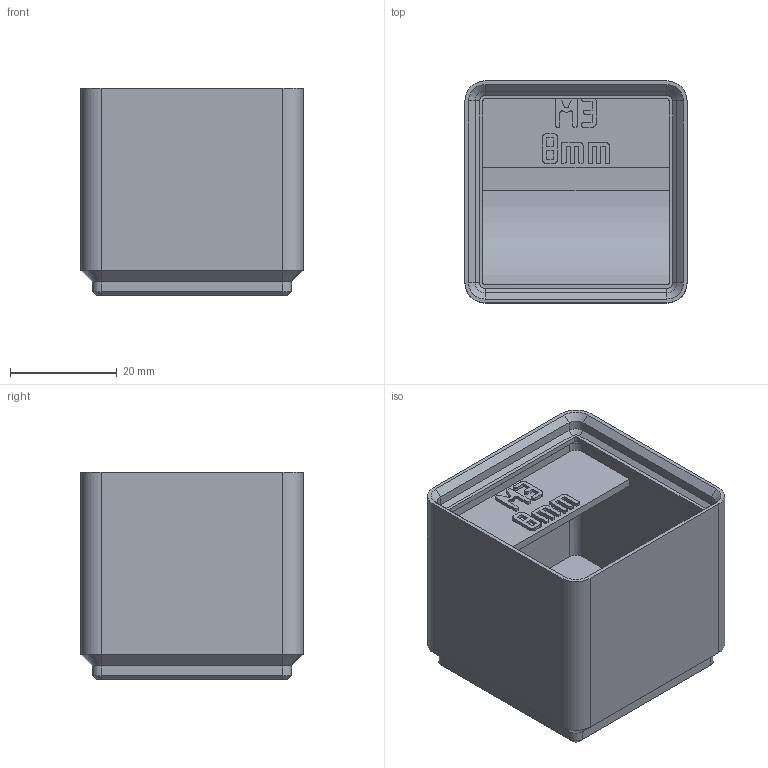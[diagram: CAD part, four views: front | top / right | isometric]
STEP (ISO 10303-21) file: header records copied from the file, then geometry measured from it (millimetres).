
FILE_DESCRIPTION(('Open CASCADE Model'),'2;1');
FILE_NAME('Open CASCADE Shape Model','2026-11-03T10:23:40',('Author'),( 'Open CASCADE'),'Open CASCADE STEP processor 8.0','build123d', 'Unknown');
FILE_SCHEMA(('AUTOMOTIVE_DESIGN { 1 0 10303 214 1 1 1 1 }'));
Length unit declared in the file: millimetre
Products named in the file (1): COMPOUND
Bounding box: 41.5 x 41.5 x 38.8 mm (x, y, z)
Volume: 28173.5 mm3; surface area: 14235.6 mm2
Topology: 1 solids, 1 shells, 568 faces, 1615 edges, 1058 vertices
Faces by surface type: plane 525, cylinder 23, cone 20
Entity records: 38098 total; most frequent: CARTESIAN_POINT 7854, DIRECTION 4877, LINE 3611, VECTOR 3611, ORIENTED_EDGE 3230, PCURVE 3230, DEFINITIONAL_REPRESENTATION 3230, EDGE_CURVE 1615
